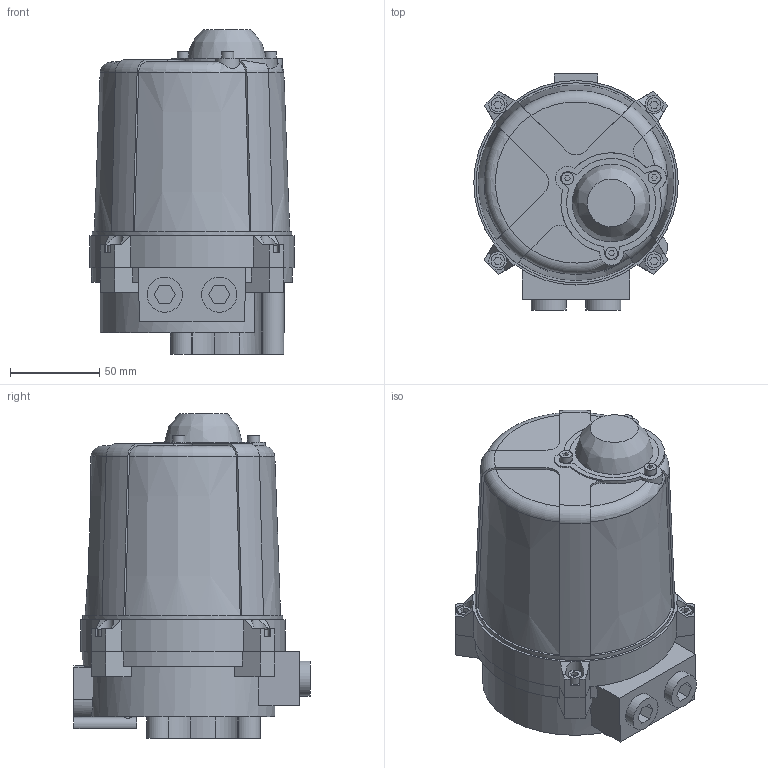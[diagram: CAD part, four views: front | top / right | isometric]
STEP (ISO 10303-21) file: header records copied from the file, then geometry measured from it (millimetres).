
FILE_DESCRIPTION((' '),'2;1');
FILE_NAME('N:\Technical Support\Private\Jomar Valve CAD\Actuation\AE\AE-350\AE-350FusionCopy.stp','2017-08-18T16:16:50',(' '),(' '),' ','ACIS',' ');
FILE_SCHEMA(('CONFIG_CONTROL_DESIGN'));
Length unit declared in the file: inch
Products named in the file (16): N:\Technical Support\Private\Jomar Valve CAD\Actuation\AE\AE-350\AE-350FusionCopy.stp; Body1; Body2; Body3; Body4; Body5; Body6; Body7; Body8; Body9; Body10; Body11; Body12; Body13; Body14; Body15
Assembly tree (15 placements, depth 2):
  N:\Technical Support\Private\Jomar Valve CAD\Actuation\AE\AE-350\AE-350FusionCopy.stp
    Body1
    Body2
    Body3
    Body4
    Body5
    Body6
    Body7
    Body8
    Body9
    Body10
    Body11
    Body12
    Body13
    Body14
    Body15
Bounding box: 114.3 x 132.02 x 181.48 mm (x, y, z)
Volume: 1473663.1 mm3; surface area: 133341.1 mm2
Topology: 15 solids, 15 shells, 365 faces, 907 edges, 602 vertices
Faces by surface type: plane 218, cylinder 92, bspline 39, torus 8, cone 8
Full cylindrical faces by diameter (mm): 3.81 x2, 5 x8, 6 x4, 6.858 x3, 7.747 x2, 8 x4, 16.383 x1, 19.685 x4, 25.019 x2, 111.76 x1
Entity records: 13202 total; most frequent: CARTESIAN_POINT 2311, DIRECTION 1797, ORIENTED_EDGE 1740, EDGE_CURVE 870, AXIS2_PLACEMENT_3D 610, VERTEX_POINT 599, VECTOR 577, LINE 577
